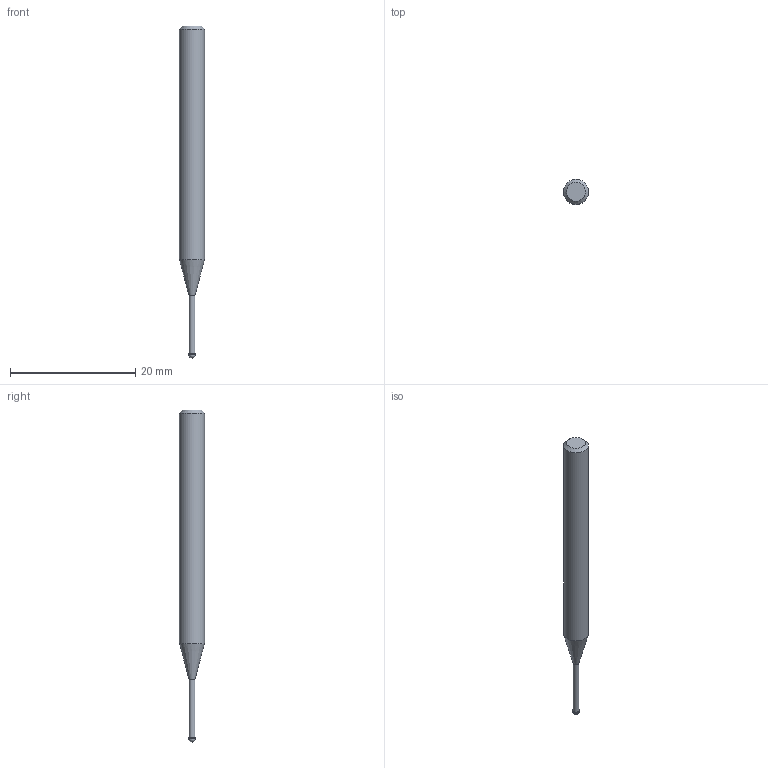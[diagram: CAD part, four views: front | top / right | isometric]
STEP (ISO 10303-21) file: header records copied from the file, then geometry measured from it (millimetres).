
FILE_DESCRIPTION((''),'2;1');
FILE_NAME('C:\Users\nsx150\AppData\Local\Temp\Mastercam 2021\LJSIDMOTM8\TEMP.step','2021-08-03T14:24:07',(''),(''),'STEP Write','Mastercam 2021 ... CNC Software, Inc.','');
FILE_SCHEMA(('AUTOMOTIVE_DESIGN'));
Length unit declared in the file: millimetre
Products named in the file (1): None
Bounding box: 4 x 4 x 53 mm (x, y, z)
Volume: 505.3 mm3; surface area: 554.7 mm2
Topology: 2 solids, 2 shells, 9 faces, 14 edges, 8 vertices
Faces by surface type: plane 3, cylinder 3, cone 2, sphere 1
Full cylindrical faces by diameter (mm): 0.95 x1, 1 x1, 4 x1
Entity records: 211 total; most frequent: DIRECTION 36, CARTESIAN_POINT 25, AXIS2_PLACEMENT_3D 18, ORIENTED_EDGE 14, EDGE_LOOP 14, STYLED_ITEM 12, ADVANCED_FACE 9, FACE_BOUND 8
